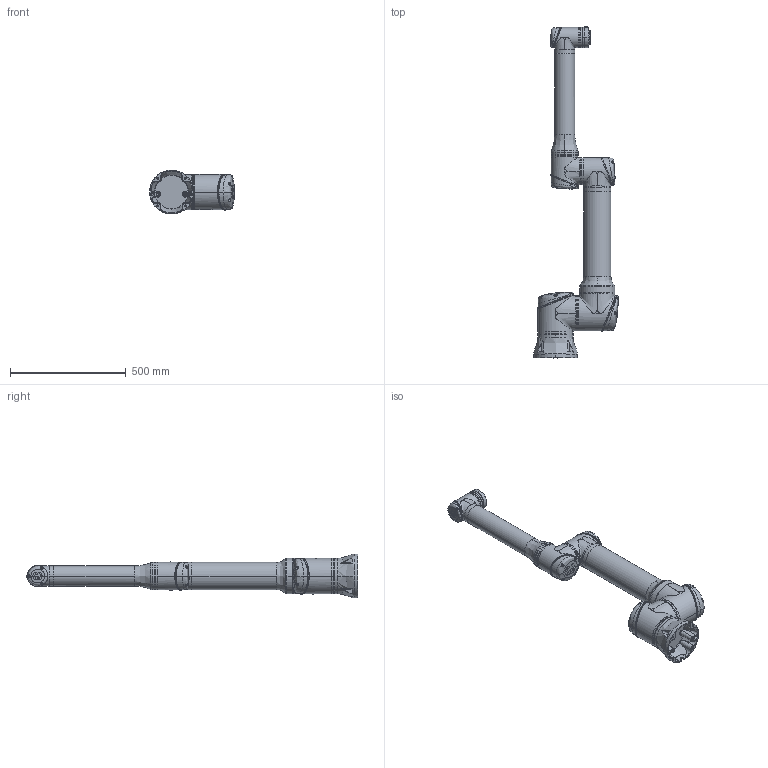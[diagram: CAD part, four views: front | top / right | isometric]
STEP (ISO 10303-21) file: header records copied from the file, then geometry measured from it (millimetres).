
FILE_DESCRIPTION (( 'STEP AP203' ), '1' );
FILE_NAME ('CS_掛极CS515R_V1.1.STEP', '2023-10-30T07:51:00', ( '' ), ( '' ), 'SwSTEP 2.0', 'SolidWorks 2017', '' );
FILE_SCHEMA (( 'CONFIG_CONTROL_DESIGN' ));
Length unit declared in the file: millimetre
Products named in the file (7): CS515R_Base; CS515R_Flange; CS515R_Link3; CS515R_Link2; CS515R_Link4-2; CS515R_Link1; CS_掛极CS515R_V1.1
Assembly tree (6 placements, depth 2):
  CS_掛极CS515R_V1.1
    CS515R_Base
    CS515R_Link1
    CS515R_Link2
    CS515R_Link3
    CS515R_Link4-2
    CS515R_Flange
Bounding box: 366.83 x 1436.43 x 189.7 mm (x, y, z)
Volume: 20390176.2 mm3; surface area: 1304508.1 mm2
Topology: 72 solids, 93 shells, 4701 faces, 11272 edges, 6755 vertices
Faces by surface type: bspline 2003, plane 1234, cylinder 882, cone 355, torus 143, sphere 84
Entity records: 484857 total; most frequent: CARTESIAN_POINT 392486, ORIENTED_EDGE 22064, DIRECTION 14768, EDGE_CURVE 11032, VERTEX_POINT 6742, AXIS2_PLACEMENT_3D 6096, EDGE_LOOP 5004, ADVANCED_FACE 4702
